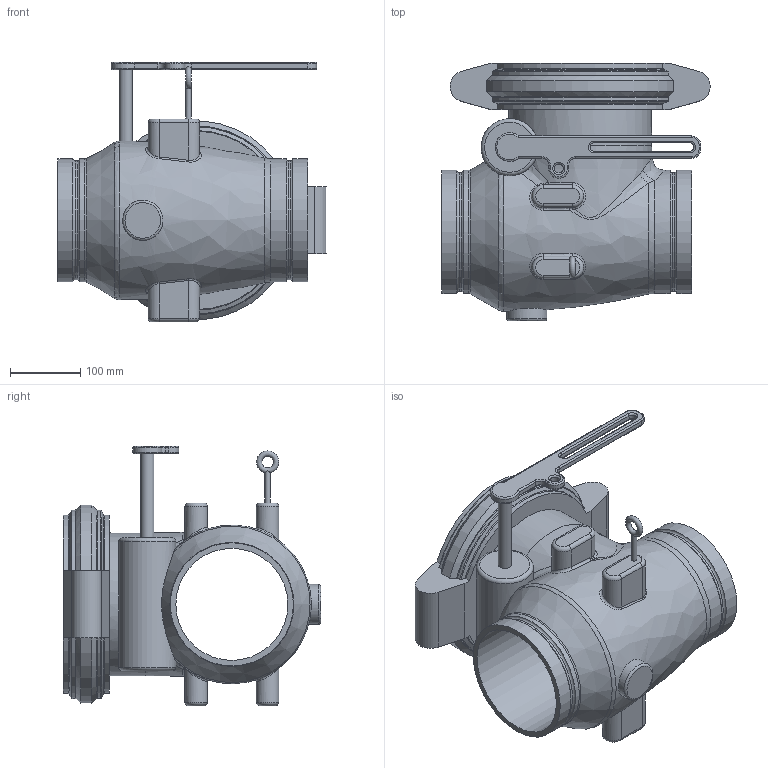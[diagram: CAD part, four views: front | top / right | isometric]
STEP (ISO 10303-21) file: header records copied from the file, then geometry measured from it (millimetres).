
FILE_DESCRIPTION(/* description */ ('VIC AWWA VALVE CHECK SPRING AND LEVER SERIES 317 (DRG)','CAx-IF Rec.Pracs.---Representation and Presentation of Product Manufacturing Information (PMI)---4.0---2014-10-13'),/* implementation_level */ '2;1');
FILE_NAME(/* name */ 'C:\Users\Vjadhav\Desktop\CAD for Inventor\1\317\STEP\Victaulic_AWWA_Valve Check Spring and Lever_Series 317 (DRG)\Victaulic_AWWA_Valve Check Spring and Lever_Series 317 (DRG)_6 (150).stp',/* time_stamp */ '2021-10-01T17:34:45+05:00',/* author */ ('jbrannon'),/* organization */ ('Victaulic'),/* preprocessor_version */ 'ST-DEVELOPER v17.2',/* originating_system */ 'Autodesk Inventor 2019',/* authorisation */ '');
FILE_SCHEMA (('AP242_MANAGED_MODEL_BASED_3D_ENGINEERING_MIM_LF { 1 0 10303 442 1 1 4 }'));
Length unit declared in the file: inch
Products named in the file (1): 317-06.0
Bounding box: 381.81 x 366.52 x 369.32 mm (x, y, z)
Volume: 12148319.4 mm3; surface area: 689169.3 mm2
Topology: 1 solids, 1 shells, 192 faces, 490 edges, 306 vertices
Faces by surface type: cylinder 65, torus 50, plane 37, bspline 30, cone 10
Full cylindrical faces by diameter (mm): 7.62 x1, 12.827 x1, 19.05 x1, 57.15 x1, 81.28 x1, 159.512 x1, 169.062 x2, 175.26 x4, 203.2 x1
Entity records: 7755 total; most frequent: CARTESIAN_POINT 2926, ORIENTED_EDGE 980, DIRECTION 962, EDGE_CURVE 490, AXIS2_PLACEMENT_3D 412, VERTEX_POINT 306, CIRCLE 236, EDGE_LOOP 206
